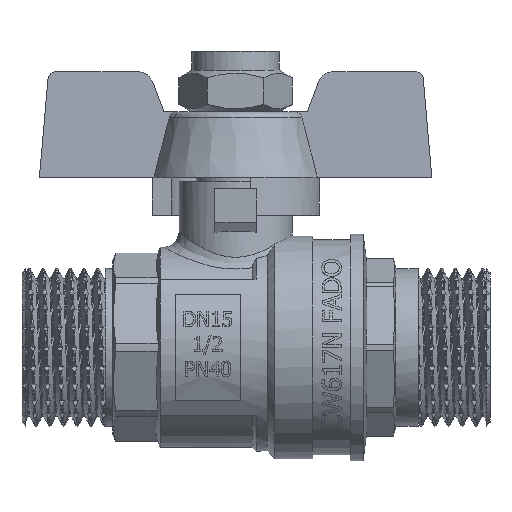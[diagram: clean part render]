
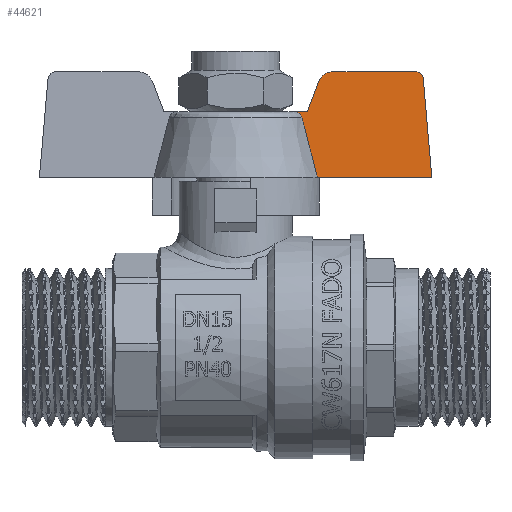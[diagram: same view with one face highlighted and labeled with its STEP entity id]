
A CAD part, top view. The second image highlights one B-rep face of the part: STEP entity #44621.
In plain terms, the highlighted planar face has unit normal (0, 0.035, 0.999) as drawn and (-0.999, 0.035, 0) by its records, which use the part's own axes.
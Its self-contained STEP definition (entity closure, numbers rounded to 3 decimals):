
#1021=(
BOUNDED_CURVE()
B_SPLINE_CURVE(2,(#57422,#57423,#57424,#57425),.UNSPECIFIED.,.F.,.F.)
B_SPLINE_CURVE_WITH_KNOTS((3,1,3),(202.672,204.434,205.693),
 .UNSPECIFIED.)
CURVE()
GEOMETRIC_REPRESENTATION_ITEM()
RATIONAL_B_SPLINE_CURVE((26.423,25.181,23.011,
22.096))
REPRESENTATION_ITEM('')
);
#1193=ELLIPSE('',#47370,1.001,1.);
#1194=ELLIPSE('',#47371,2.001,2.);
#1330=B_SPLINE_CURVE_WITH_KNOTS('',3,(#57411,#57412,#57413,#57414,#57415,
#57416,#57417,#57418,#57419,#57420),.UNSPECIFIED.,.F.,.F.,(4,2,2,2,4),(0.024,
0.036,0.074,0.112,0.152),
 .UNSPECIFIED.);
#5926=PLANE('',#47369);
#7099=FACE_OUTER_BOUND('',#9676,.T.);
#9676=EDGE_LOOP('',(#29873,#29874,#29875,#29876,#29877,#29878,#29879,#29880,
#29881));
#12367=LINE('',#57427,#14619);
#12368=LINE('',#57429,#14620);
#12369=LINE('',#57433,#14621);
#12370=LINE('',#57437,#14622);
#12371=LINE('',#57438,#14623);
#14619=VECTOR('',#49993,10.);
#14620=VECTOR('',#49994,10.);
#14621=VECTOR('',#49997,10.);
#14622=VECTOR('',#50000,10.);
#14623=VECTOR('',#50001,10.);
#17611=VERTEX_POINT('',#57409);
#17612=VERTEX_POINT('',#57410);
#17613=VERTEX_POINT('',#57421);
#17614=VERTEX_POINT('',#57426);
#17615=VERTEX_POINT('',#57428);
#17616=VERTEX_POINT('',#57430);
#17617=VERTEX_POINT('',#57432);
#17618=VERTEX_POINT('',#57434);
#17619=VERTEX_POINT('',#57436);
#22504=EDGE_CURVE('',#17611,#17612,#1330,.T.);
#22505=EDGE_CURVE('',#17613,#17611,#1021,.F.);
#22506=EDGE_CURVE('',#17613,#17614,#12367,.T.);
#22507=EDGE_CURVE('',#17614,#17615,#12368,.F.);
#22508=EDGE_CURVE('',#17615,#17616,#1193,.F.);
#22509=EDGE_CURVE('',#17616,#17617,#12369,.F.);
#22510=EDGE_CURVE('',#17617,#17618,#1194,.F.);
#22511=EDGE_CURVE('',#17618,#17619,#12370,.F.);
#22512=EDGE_CURVE('',#17619,#17612,#12371,.T.);
#29873=ORIENTED_EDGE('',*,*,#22504,.F.);
#29874=ORIENTED_EDGE('',*,*,#22505,.F.);
#29875=ORIENTED_EDGE('',*,*,#22506,.T.);
#29876=ORIENTED_EDGE('',*,*,#22507,.T.);
#29877=ORIENTED_EDGE('',*,*,#22508,.T.);
#29878=ORIENTED_EDGE('',*,*,#22509,.T.);
#29879=ORIENTED_EDGE('',*,*,#22510,.T.);
#29880=ORIENTED_EDGE('',*,*,#22511,.T.);
#29881=ORIENTED_EDGE('',*,*,#22512,.T.);
#44621=ADVANCED_FACE('',(#7099),#5926,.F.);
#47369=AXIS2_PLACEMENT_3D('',#57408,#49991,#49992);
#47370=AXIS2_PLACEMENT_3D('',#57431,#49995,#49996);
#47371=AXIS2_PLACEMENT_3D('',#57435,#49998,#49999);
#49991=DIRECTION('center_axis',(0.999,-0.035,0.));
#49992=DIRECTION('ref_axis',(0.,0.,-1.));
#49993=DIRECTION('',(0.,0.,1.));
#49994=DIRECTION('',(-0.035,-0.996,0.087));
#49995=DIRECTION('center_axis',(0.999,-0.035,0.));
#49996=DIRECTION('ref_axis',(0.035,0.999,0.));
#49997=DIRECTION('',(0.,0.,1.));
#49998=DIRECTION('center_axis',(0.999,-0.035,0.));
#49999=DIRECTION('ref_axis',(0.035,0.999,0.));
#50000=DIRECTION('',(0.033,0.935,0.353));
#50001=DIRECTION('',(0.,0.,-1.));
#57408=CARTESIAN_POINT('Origin',(-2.754,7.001,0.));
#57409=CARTESIAN_POINT('',(-2.721,7.95,8.782));
#57410=CARTESIAN_POINT('',(-2.695,8.7,7.772));
#57411=CARTESIAN_POINT('Ctrl Pts',(-2.721,7.95,8.782));
#57412=CARTESIAN_POINT('Ctrl Pts',(-2.72,7.995,8.77));
#57413=CARTESIAN_POINT('Ctrl Pts',(-2.718,8.038,8.756));
#57414=CARTESIAN_POINT('Ctrl Pts',(-2.713,8.191,8.692));
#57415=CARTESIAN_POINT('Ctrl Pts',(-2.708,8.314,8.609));
#57416=CARTESIAN_POINT('Ctrl Pts',(-2.702,8.49,8.43));
#57417=CARTESIAN_POINT('Ctrl Pts',(-2.699,8.573,8.301));
#57418=CARTESIAN_POINT('Ctrl Pts',(-2.696,8.67,8.06));
#57419=CARTESIAN_POINT('Ctrl Pts',(-2.695,8.7,7.904));
#57420=CARTESIAN_POINT('Ctrl Pts',(-2.695,8.7,7.772));
#57421=CARTESIAN_POINT('',(-2.999,0.,10.843));
#57422=CARTESIAN_POINT('Ctrl Pts',(-2.721,7.95,8.782));
#57423=CARTESIAN_POINT('Ctrl Pts',(-2.791,5.948,9.303));
#57424=CARTESIAN_POINT('Ctrl Pts',(-2.931,1.932,10.343));
#57425=CARTESIAN_POINT('Ctrl Pts',(-2.999,0.,
10.843));
#57426=CARTESIAN_POINT('',(-2.999,0.,26.));
#57427=CARTESIAN_POINT('',(-2.999,0.,0.));
#57428=CARTESIAN_POINT('',(-2.542,13.087,24.855));
#57429=CARTESIAN_POINT('',(-2.608,11.189,25.021));
#57430=CARTESIAN_POINT('',(-2.51,14.,23.859));
#57431=CARTESIAN_POINT('Origin',(-2.545,13.,23.859));
#57432=CARTESIAN_POINT('',(-2.51,14.,12.883));
#57433=CARTESIAN_POINT('',(-2.51,14.,6.441));
#57434=CARTESIAN_POINT('',(-2.555,12.706,11.012));
#57435=CARTESIAN_POINT('Origin',(-2.58,12.,12.883));
#57436=CARTESIAN_POINT('',(-2.695,8.7,9.5));
#57437=CARTESIAN_POINT('',(-2.774,6.43,8.643));
#57438=CARTESIAN_POINT('',(-2.695,8.7,-9.5));
